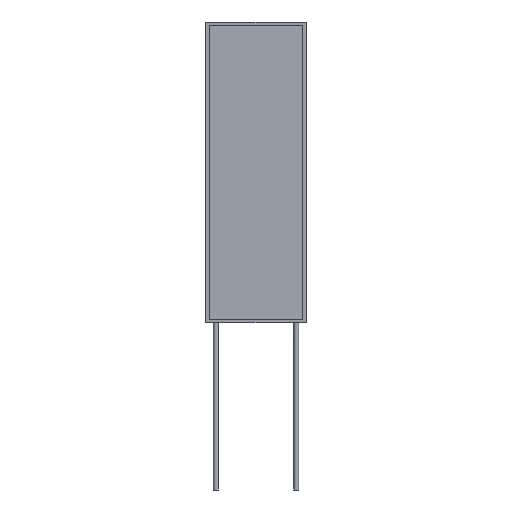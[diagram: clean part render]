
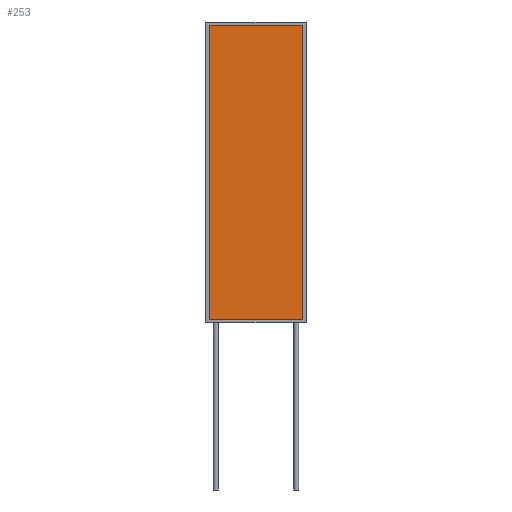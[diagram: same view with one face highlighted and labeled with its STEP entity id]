
A CAD part, left-side view. The second image highlights one B-rep face of the part: STEP entity #253.
In plain terms, the highlighted planar face has unit normal (-1, 0, 0).
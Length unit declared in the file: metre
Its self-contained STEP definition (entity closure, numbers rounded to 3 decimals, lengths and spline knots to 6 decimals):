
#70=ORIENTED_EDGE('',*,*,#95,.F.);
#71=ORIENTED_EDGE('',*,*,#98,.T.);
#72=ORIENTED_EDGE('',*,*,#100,.T.);
#73=ORIENTED_EDGE('',*,*,#101,.F.);
#95=EDGE_CURVE('',#118,#119,#139,.T.);
#98=EDGE_CURVE('',#118,#120,#142,.T.);
#100=EDGE_CURVE('',#120,#121,#144,.T.);
#101=EDGE_CURVE('',#119,#121,#145,.T.);
#118=VERTEX_POINT('',#503);
#119=VERTEX_POINT('',#505);
#120=VERTEX_POINT('',#509);
#121=VERTEX_POINT('',#513);
#139=LINE('',#504,#163);
#142=LINE('',#510,#166);
#144=LINE('',#514,#168);
#145=LINE('',#516,#169);
#163=VECTOR('',#439,1.);
#166=VECTOR('',#444,1.);
#168=VECTOR('',#448,1.);
#169=VECTOR('',#451,1.);
#189=EDGE_LOOP('',(#70,#71,#72,#73));
#209=FACE_BOUND('',#189,.T.);
#222=PLANE('',#389);
#253=ADVANCED_FACE('',(#209),#222,.T.);
#389=AXIS2_PLACEMENT_3D('',#517,#452,#453);
#439=DIRECTION('',(0.,0.,1.));
#444=DIRECTION('',(0.,-1.,0.));
#448=DIRECTION('',(0.,0.,1.));
#451=DIRECTION('',(0.,-1.,0.));
#452=DIRECTION('',(-1.,0.,0.));
#453=DIRECTION('',(0.,-1.,0.));
#503=CARTESIAN_POINT('',(-0.0005,0.007,0.0005));
#504=CARTESIAN_POINT('',(-0.0005,0.007,0.0225));
#505=CARTESIAN_POINT('',(-0.0005,0.007,0.0445));
#509=CARTESIAN_POINT('',(-0.0005,-0.007,0.0005));
#510=CARTESIAN_POINT('',(-0.0005,0.,0.0005));
#513=CARTESIAN_POINT('',(-0.0005,-0.007,0.0445));
#514=CARTESIAN_POINT('',(-0.0005,-0.007,0.0225));
#516=CARTESIAN_POINT('',(-0.0005,0.,0.0445));
#517=CARTESIAN_POINT('',(-0.0005,0.,0.0225));
